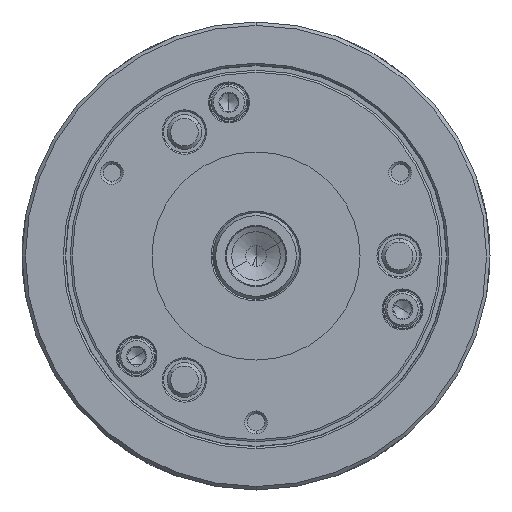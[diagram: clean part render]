
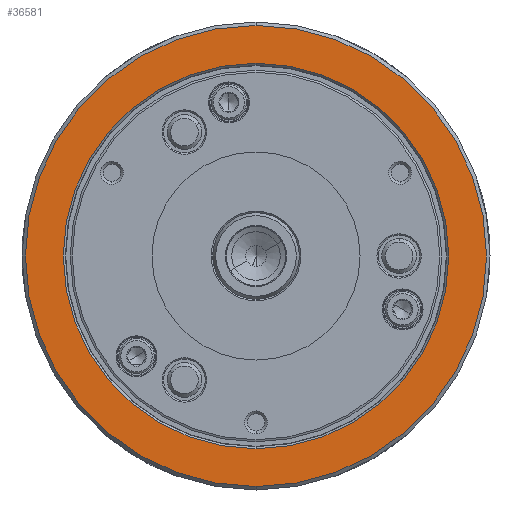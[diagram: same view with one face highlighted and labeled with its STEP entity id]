
A CAD part, left-side view. The second image highlights one B-rep face of the part: STEP entity #36581.
In plain terms, the highlighted planar face has unit normal (-1, 0, 0).
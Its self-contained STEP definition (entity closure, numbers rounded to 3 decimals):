
#322 = CARTESIAN_POINT ( 'NONE',  ( -72., 0., 0. ) ) ;
#574 = ORIENTED_EDGE ( 'NONE', *, *, #25124, .F. ) ;
#2070 = VERTEX_POINT ( 'NONE', #41778 ) ;
#5474 = CARTESIAN_POINT ( 'NONE',  ( -72., 0., 55.6 ) ) ;
#8955 = PLANE ( 'NONE',  #45655 ) ;
#10280 = VERTEX_POINT ( 'NONE', #5474 ) ;
#14064 = CARTESIAN_POINT ( 'NONE',  ( -72., 55.6, 0. ) ) ;
#14274 = CIRCLE ( 'NONE', #49883, 55.6 ) ;
#15025 = DIRECTION ( 'NONE',  ( 1., 0., 0. ) ) ;
#15161 = AXIS2_PLACEMENT_3D ( 'NONE', #21872, #17117, #56042 ) ;
#17117 = DIRECTION ( 'NONE',  ( 1., 0., 0. ) ) ;
#20716 = DIRECTION ( 'NONE',  ( 0., 0., -1. ) ) ;
#21491 = EDGE_LOOP ( 'NONE', ( #574, #42355 ) ) ;
#21776 = CIRCLE ( 'NONE', #30928, 55.6 ) ;
#21872 = CARTESIAN_POINT ( 'NONE',  ( -72., 0., 0. ) ) ;
#25124 = EDGE_CURVE ( 'NONE', #43560, #37583, #39557, .T. ) ;
#27072 = CARTESIAN_POINT ( 'NONE',  ( -72., 0., 0. ) ) ;
#29317 = CARTESIAN_POINT ( 'NONE',  ( -72., 0., 66.5 ) ) ;
#30928 = AXIS2_PLACEMENT_3D ( 'NONE', #27072, #51327, #36314 ) ;
#33117 = FACE_BOUND ( 'NONE', #49160, .T. ) ;
#33692 = DIRECTION ( 'NONE',  ( 1., 0., 0. ) ) ;
#33753 = FACE_OUTER_BOUND ( 'NONE', #21491, .T. ) ;
#36314 = DIRECTION ( 'NONE',  ( 0., 0., -1. ) ) ;
#36581 = ADVANCED_FACE ( 'NONE', ( #33117, #33753 ), #8955, .T. ) ;
#37583 = VERTEX_POINT ( 'NONE', #29317 ) ;
#38849 = DIRECTION ( 'NONE',  ( 0., 0., 1. ) ) ;
#39557 = CIRCLE ( 'NONE', #48767, 66.5 ) ;
#40485 = ORIENTED_EDGE ( 'NONE', *, *, #58716, .T. ) ;
#41778 = CARTESIAN_POINT ( 'NONE',  ( -72., 0., -55.6 ) ) ;
#42355 = ORIENTED_EDGE ( 'NONE', *, *, #62401, .F. ) ;
#43560 = VERTEX_POINT ( 'NONE', #55886 ) ;
#45655 = AXIS2_PLACEMENT_3D ( 'NONE', #14064, #52963, #38849 ) ;
#48410 = CARTESIAN_POINT ( 'NONE',  ( -72., 0., 0. ) ) ;
#48767 = AXIS2_PLACEMENT_3D ( 'NONE', #48410, #33692, #54459 ) ;
#49160 = EDGE_LOOP ( 'NONE', ( #57505, #40485 ) ) ;
#49883 = AXIS2_PLACEMENT_3D ( 'NONE', #322, #15025, #20716 ) ;
#51327 = DIRECTION ( 'NONE',  ( 1., 0., 0. ) ) ;
#52807 = CIRCLE ( 'NONE', #15161, 66.5 ) ;
#52963 = DIRECTION ( 'NONE',  ( -1., 0., 0. ) ) ;
#54459 = DIRECTION ( 'NONE',  ( 0., 0., -1. ) ) ;
#55574 = EDGE_CURVE ( 'NONE', #10280, #2070, #14274, .T. ) ;
#55886 = CARTESIAN_POINT ( 'NONE',  ( -72., 0., -66.5 ) ) ;
#56042 = DIRECTION ( 'NONE',  ( 0., 0., -1. ) ) ;
#57505 = ORIENTED_EDGE ( 'NONE', *, *, #55574, .T. ) ;
#58716 = EDGE_CURVE ( 'NONE', #2070, #10280, #21776, .T. ) ;
#62401 = EDGE_CURVE ( 'NONE', #37583, #43560, #52807, .T. ) ;
